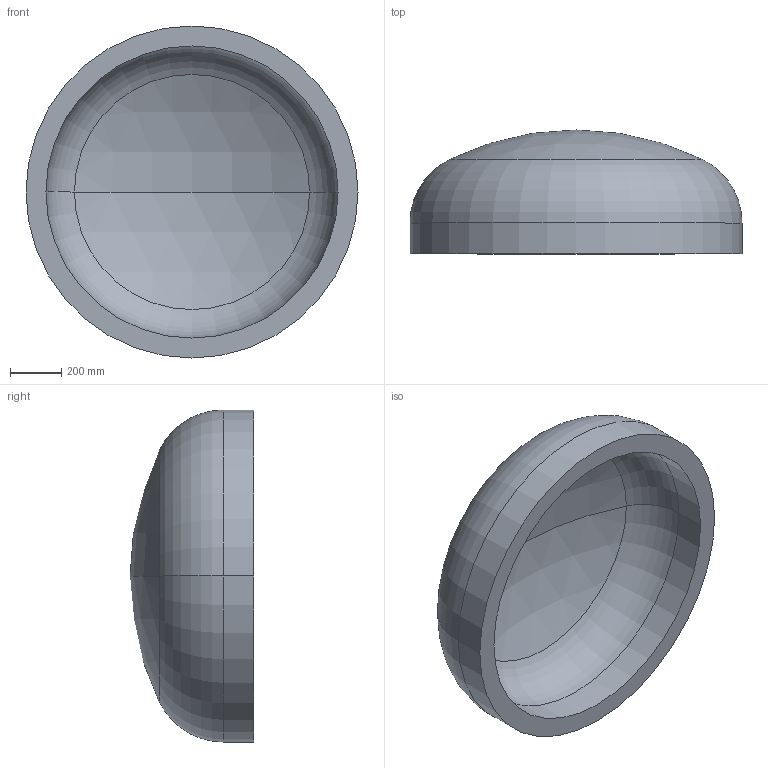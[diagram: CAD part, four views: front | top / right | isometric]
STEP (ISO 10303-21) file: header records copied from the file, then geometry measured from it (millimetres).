
FILE_DESCRIPTION (( 'STEP AP203' ), '1' );
FILE_NAME ('DIN 28013 Korbbogenform_-_Boden DIN 28013 - 1300 x 120 - I - s=78.step', '2016-07-01T09:58:44', ( '' ), ( '' ), 'SwSTEP 2.0', 'SolidWorks 2013', '' );
FILE_SCHEMA (( 'CONFIG_CONTROL_DESIGN' ));
Length unit declared in the file: millimetre
Products named in the file (1): DIN 28013 Korbbogenform_-_Boden DIN 28013 - 1300 x 120 - I - s=78
Bounding box: 1300 x 484.86 x 1300 mm (x, y, z)
Volume: 168737288.8 mm3; surface area: 4638782.5 mm2
Topology: 1 solids, 1 shells, 13 faces, 24 edges, 14 vertices
Faces by surface type: torus 4, cylinder 4, sphere 4, plane 1
Entity records: 407 total; most frequent: DIRECTION 72, CARTESIAN_POINT 52, ORIENTED_EDGE 48, AXIS2_PLACEMENT_3D 34, EDGE_CURVE 24, CIRCLE 20, VERTEX_POINT 14, EDGE_LOOP 14
